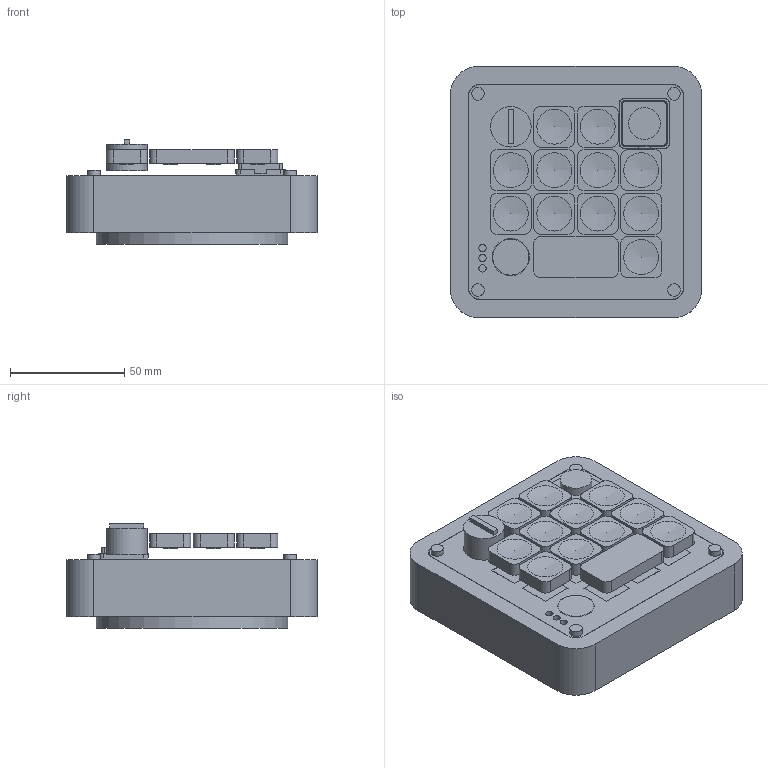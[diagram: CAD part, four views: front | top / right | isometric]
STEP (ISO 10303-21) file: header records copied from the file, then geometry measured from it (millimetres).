
FILE_DESCRIPTION(('Open CASCADE Model'),'2;1');
FILE_NAME('Open CASCADE Shape Model','2026-09-06T14:28:00',('Author'),( 'Open CASCADE'),'Open CASCADE STEP processor 7.9','Open CASCADE 7.9' ,'Unknown');
FILE_SCHEMA(('AUTOMOTIVE_DESIGN { 1 0 10303 214 1 1 1 1 }'));
Length unit declared in the file: millimetre
Products named in the file (50): DIY_Micro_Rev_A; case; switch_plate; round_foot; joystick_cradle; touch_cap; encoder_knob; light_baffle_1; REF_RGBW_LED_1; light_baffle_2; REF_RGBW_LED_2; light_baffle_3; REF_RGBW_LED_3; light_baffle_4; REF_RGBW_LED_4; light_baffle_5; REF_RGBW_LED_5; light_baffle_6; REF_RGBW_LED_6; REF_MX_switch_R1C2; keycap_R1C2; REF_MX_switch_R1C3; keycap_R1C3; REF_MX_switch_R2C1; keycap_R2C1; REF_MX_switch_R2C2; keycap_R2C2; REF_MX_switch_R2C3; keycap_R2C3; REF_MX_switch_R2C4; keycap_R2C4; REF_MX_switch_R3C1; keycap_R3C1; REF_MX_switch_R3C2; keycap_R3C2; REF_MX_switch_R3C3; keycap_R3C3; REF_MX_switch_R3C4; keycap_R3C4; REF_MX_switch_R4C2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
Assembly tree (49 placements, depth 2):
  DIY_Micro_Rev_A
    case
    switch_plate
    round_foot
    joystick_cradle
    touch_cap
    encoder_knob
    light_baffle_1
    REF_RGBW_LED_1
    light_baffle_2
    REF_RGBW_LED_2
    light_baffle_3
    REF_RGBW_LED_3
    light_baffle_4
    REF_RGBW_LED_4
    light_baffle_5
    REF_RGBW_LED_5
    light_baffle_6
    REF_RGBW_LED_6
    REF_MX_switch_R1C2
    keycap_R1C2
    REF_MX_switch_R1C3
    keycap_R1C3
    REF_MX_switch_R2C1
    keycap_R2C1
    REF_MX_switch_R2C2
    keycap_R2C2
    REF_MX_switch_R2C3
    keycap_R2C3
    REF_MX_switch_R2C4
    keycap_R2C4
    REF_MX_switch_R3C1
    keycap_R3C1
    REF_MX_switch_R3C2
    keycap_R3C2
    REF_MX_switch_R3C3
    keycap_R3C3
    REF_MX_switch_R3C4
    keycap_R3C4
    REF_MX_switch_R4C2
    REF_MX_switch_R4C3
    REF_MX_switch_R4C4
    keycap_R4C4
    wide_keycap
    REF_PSP_joystick_envelope
    REF_KB2040_envelope
    REF_screw_-43.0_-43.0
    REF_screw_-43.0_43.0
    REF_screw_43.0_-43.0
    REF_screw_43.0_43.0
Bounding box: 110 x 110 x 45.8 mm (x, y, z)
Volume: 174746.4 mm3; surface area: 129338.8 mm2
Topology: 49 solids, 49 shells, 1098 faces, 2728 edges, 1816 vertices
Faces by surface type: plane 851, cylinder 236, sphere 11
Full cylindrical faces by diameter (mm): 3.2 x3, 3.3 x6, 3.4 x6, 3.9 x6, 5.5 x4, 6 x13, 6.3 x2, 7.2 x1, 8 x4, 9 x2, 10.8 x1, 13.8 x1, 14 x1, 15.8 x1, 16.2 x1, 17.8 x1, 18.8 x1, 24.6 x4, 84 x1
Entity records: 69099 total; most frequent: CARTESIAN_POINT 12747, DIRECTION 10280, LINE 6656, VECTOR 6656, ORIENTED_EDGE 5434, PCURVE 5434, DEFINITIONAL_REPRESENTATION 5434, EDGE_CURVE 2717
